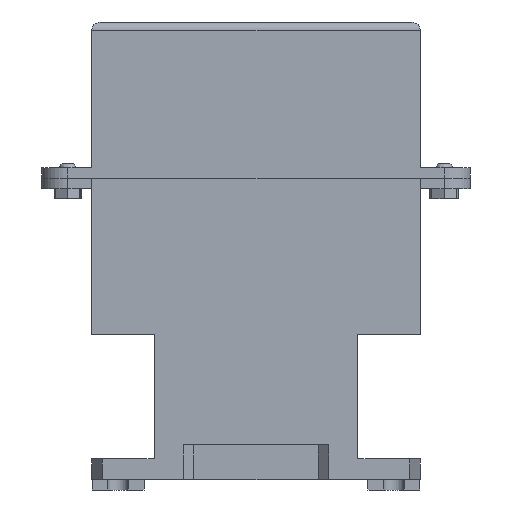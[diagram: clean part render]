
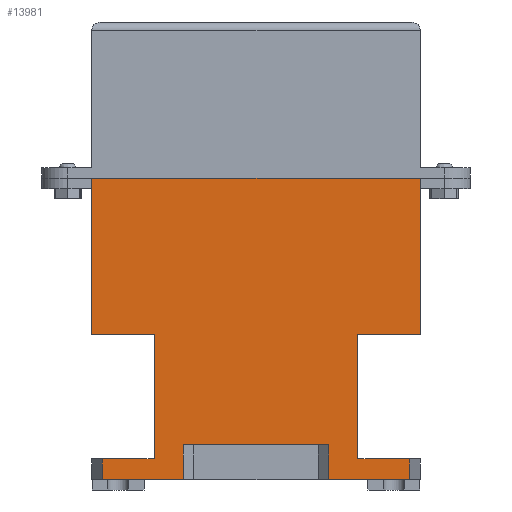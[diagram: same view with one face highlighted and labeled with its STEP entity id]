
A CAD part, left-side view. The second image highlights one B-rep face of the part: STEP entity #13981.
In plain terms, the highlighted planar face has unit normal (-1, 0, 0).
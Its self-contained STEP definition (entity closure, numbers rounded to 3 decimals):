
#1295=FACE_OUTER_BOUND('',#2101,.T.);
#2101=EDGE_LOOP('',(#11486,#11487,#11488,#11489,#11490,#11491,#11492,#11493,
#11494,#11495,#11496,#11497,#11498,#11499,#11500,#11501));
#3286=LINE('',#23267,#4822);
#3290=LINE('',#23276,#4826);
#3294=LINE('',#23284,#4830);
#3318=LINE('',#23348,#4854);
#3342=LINE('',#23396,#4878);
#3345=LINE('',#23401,#4881);
#3346=LINE('',#23403,#4882);
#3349=LINE('',#23410,#4885);
#3359=LINE('',#23438,#4895);
#3360=LINE('',#23440,#4896);
#3361=LINE('',#23442,#4897);
#3362=LINE('',#23444,#4898);
#3363=LINE('',#23446,#4899);
#3364=LINE('',#23448,#4900);
#3365=LINE('',#23450,#4901);
#3366=LINE('',#23451,#4902);
#4822=VECTOR('',#16565,10.);
#4826=VECTOR('',#16573,10.);
#4830=VECTOR('',#16577,10.);
#4854=VECTOR('',#16619,10.);
#4878=VECTOR('',#16665,10.);
#4881=VECTOR('',#16670,10.);
#4882=VECTOR('',#16673,10.);
#4885=VECTOR('',#16680,10.);
#4895=VECTOR('',#16702,10.);
#4896=VECTOR('',#16703,10.);
#4897=VECTOR('',#16704,10.);
#4898=VECTOR('',#16705,10.);
#4899=VECTOR('',#16706,10.);
#4900=VECTOR('',#16707,10.);
#4901=VECTOR('',#16708,10.);
#4902=VECTOR('',#16709,10.);
#6303=VERTEX_POINT('',#23260);
#6306=VERTEX_POINT('',#23265);
#6309=VERTEX_POINT('',#23275);
#6312=VERTEX_POINT('',#23281);
#6313=VERTEX_POINT('',#23283);
#6344=VERTEX_POINT('',#23347);
#6357=VERTEX_POINT('',#23395);
#6358=VERTEX_POINT('',#23399);
#6360=VERTEX_POINT('',#23409);
#6372=VERTEX_POINT('',#23437);
#6373=VERTEX_POINT('',#23439);
#6374=VERTEX_POINT('',#23441);
#6375=VERTEX_POINT('',#23443);
#6376=VERTEX_POINT('',#23445);
#6377=VERTEX_POINT('',#23447);
#6378=VERTEX_POINT('',#23449);
#8082=EDGE_CURVE('',#6306,#6303,#3286,.T.);
#8086=EDGE_CURVE('',#6303,#6309,#3290,.T.);
#8090=EDGE_CURVE('',#6312,#6313,#3294,.T.);
#8122=EDGE_CURVE('',#6313,#6344,#3318,.T.);
#8146=EDGE_CURVE('',#6357,#6309,#3342,.T.);
#8149=EDGE_CURVE('',#6312,#6358,#3345,.T.);
#8150=EDGE_CURVE('',#6358,#6357,#3346,.T.);
#8153=EDGE_CURVE('',#6360,#6344,#3349,.T.);
#8167=EDGE_CURVE('',#6306,#6372,#3359,.T.);
#8168=EDGE_CURVE('',#6372,#6373,#3360,.T.);
#8169=EDGE_CURVE('',#6373,#6374,#3361,.T.);
#8170=EDGE_CURVE('',#6375,#6374,#3362,.T.);
#8171=EDGE_CURVE('',#6375,#6376,#3363,.T.);
#8172=EDGE_CURVE('',#6376,#6377,#3364,.T.);
#8173=EDGE_CURVE('',#6377,#6378,#3365,.T.);
#8174=EDGE_CURVE('',#6378,#6360,#3366,.T.);
#11486=ORIENTED_EDGE('',*,*,#8082,.F.);
#11487=ORIENTED_EDGE('',*,*,#8167,.T.);
#11488=ORIENTED_EDGE('',*,*,#8168,.T.);
#11489=ORIENTED_EDGE('',*,*,#8169,.T.);
#11490=ORIENTED_EDGE('',*,*,#8170,.F.);
#11491=ORIENTED_EDGE('',*,*,#8171,.T.);
#11492=ORIENTED_EDGE('',*,*,#8172,.T.);
#11493=ORIENTED_EDGE('',*,*,#8173,.T.);
#11494=ORIENTED_EDGE('',*,*,#8174,.T.);
#11495=ORIENTED_EDGE('',*,*,#8153,.T.);
#11496=ORIENTED_EDGE('',*,*,#8122,.F.);
#11497=ORIENTED_EDGE('',*,*,#8090,.F.);
#11498=ORIENTED_EDGE('',*,*,#8149,.T.);
#11499=ORIENTED_EDGE('',*,*,#8150,.T.);
#11500=ORIENTED_EDGE('',*,*,#8146,.T.);
#11501=ORIENTED_EDGE('',*,*,#8086,.F.);
#13201=PLANE('',#14654);
#13981=ADVANCED_FACE('',(#1295),#13201,.T.);
#14654=AXIS2_PLACEMENT_3D('',#23436,#16700,#16701);
#16565=DIRECTION('',(0.,0.,-1.));
#16573=DIRECTION('',(0.,1.,0.));
#16577=DIRECTION('',(0.,1.,0.));
#16619=DIRECTION('',(0.,0.,1.));
#16665=DIRECTION('',(0.,0.,-1.));
#16670=DIRECTION('',(0.,0.,1.));
#16673=DIRECTION('',(0.,-1.,0.));
#16680=DIRECTION('',(0.,1.,0.));
#16700=DIRECTION('center_axis',(-1.,0.,0.));
#16701=DIRECTION('ref_axis',(0.,1.,0.));
#16702=DIRECTION('',(0.,1.,0.));
#16703=DIRECTION('',(0.,0.,1.));
#16704=DIRECTION('',(0.,-1.,0.));
#16705=DIRECTION('',(0.,0.,-1.));
#16706=DIRECTION('',(0.,1.,0.));
#16707=DIRECTION('',(0.,0.,-1.));
#16708=DIRECTION('',(0.,-1.,0.));
#16709=DIRECTION('',(0.,0.,-1.));
#23260=CARTESIAN_POINT('',(-10.,5.,-145.));
#23265=CARTESIAN_POINT('',(-10.,5.,-135.));
#23267=CARTESIAN_POINT('',(-10.,5.,0.));
#23275=CARTESIAN_POINT('',(-10.,44.,-145.));
#23276=CARTESIAN_POINT('',(-10.,0.,-145.));
#23281=CARTESIAN_POINT('',(-10.,114.,-145.));
#23283=CARTESIAN_POINT('',(-10.,153.,-145.));
#23284=CARTESIAN_POINT('',(-10.,0.,-145.));
#23347=CARTESIAN_POINT('',(-10.,153.,-135.));
#23348=CARTESIAN_POINT('',(-10.,153.,0.));
#23395=CARTESIAN_POINT('',(-10.,44.,-128.25));
#23396=CARTESIAN_POINT('',(-10.,44.,-72.5));
#23399=CARTESIAN_POINT('',(-10.,114.,-128.25));
#23401=CARTESIAN_POINT('',(-10.,114.,-72.5));
#23403=CARTESIAN_POINT('',(-10.,39.5,-128.25));
#23409=CARTESIAN_POINT('',(-10.,128.,-135.));
#23410=CARTESIAN_POINT('',(-10.,64.,-135.));
#23436=CARTESIAN_POINT('Origin',(-10.,0.,0.));
#23437=CARTESIAN_POINT('',(-10.,30.,-135.));
#23438=CARTESIAN_POINT('',(-10.,0.,-135.));
#23439=CARTESIAN_POINT('',(-10.,30.,-75.));
#23440=CARTESIAN_POINT('',(-10.,30.,-67.5));
#23441=CARTESIAN_POINT('',(-10.,0.,-75.));
#23442=CARTESIAN_POINT('',(-10.,15.,-75.));
#23443=CARTESIAN_POINT('',(-10.,0.,0.));
#23444=CARTESIAN_POINT('',(-10.,0.,0.));
#23445=CARTESIAN_POINT('',(-10.,158.,0.));
#23446=CARTESIAN_POINT('',(-10.,0.,0.));
#23447=CARTESIAN_POINT('',(-10.,158.,-75.));
#23448=CARTESIAN_POINT('',(-10.,158.,0.));
#23449=CARTESIAN_POINT('',(-10.,128.,-75.));
#23450=CARTESIAN_POINT('',(-10.,79.,-75.));
#23451=CARTESIAN_POINT('',(-10.,128.,-37.5));
